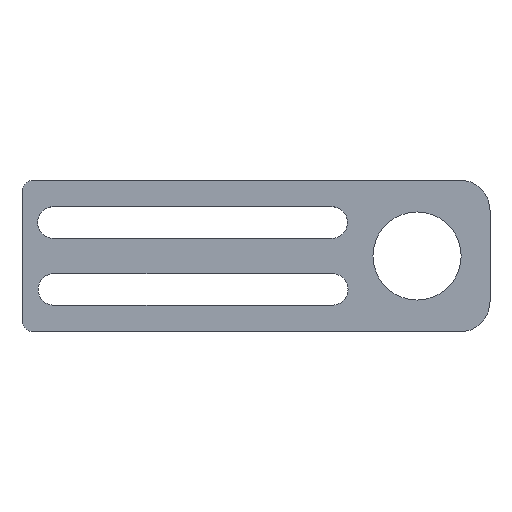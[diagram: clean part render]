
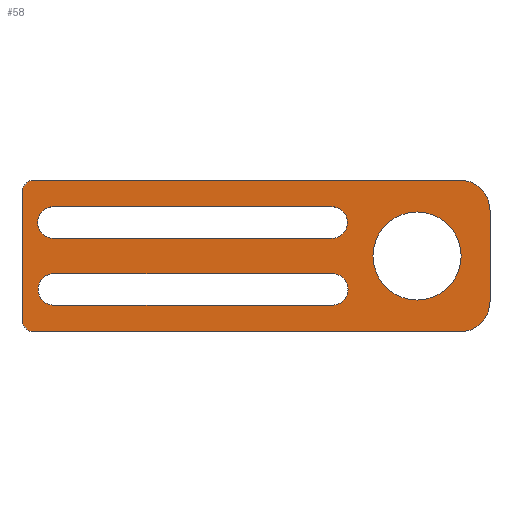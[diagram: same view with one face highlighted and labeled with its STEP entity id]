
A CAD part, top view. The second image highlights one B-rep face of the part: STEP entity #58.
In plain terms, the highlighted planar face has unit normal (0, 0, 1).
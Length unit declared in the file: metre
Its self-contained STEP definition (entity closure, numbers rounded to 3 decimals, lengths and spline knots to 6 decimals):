
#58 = ADVANCED_FACE( '', ( #113, #114, #115, #116 ), #117, .T. );
#113 = FACE_BOUND( '', #176, .T. );
#114 = FACE_BOUND( '', #177, .T. );
#115 = FACE_OUTER_BOUND( '', #178, .T. );
#116 = FACE_BOUND( '', #179, .T. );
#117 = PLANE( '', #180 );
#176 = EDGE_LOOP( '', ( #261, #262, #263, #264 ) );
#177 = EDGE_LOOP( '', ( #265, #266, #267, #268 ) );
#178 = EDGE_LOOP( '', ( #269, #270, #271, #272, #273, #274, #275, #276 ) );
#179 = EDGE_LOOP( '', ( #277 ) );
#180 = AXIS2_PLACEMENT_3D( '', #278, #279, #280 );
#261 = ORIENTED_EDGE( '', *, *, #397, .F. );
#262 = ORIENTED_EDGE( '', *, *, #383, .F. );
#263 = ORIENTED_EDGE( '', *, *, #398, .F. );
#264 = ORIENTED_EDGE( '', *, *, #399, .F. );
#265 = ORIENTED_EDGE( '', *, *, #400, .F. );
#266 = ORIENTED_EDGE( '', *, *, #401, .F. );
#267 = ORIENTED_EDGE( '', *, *, #402, .F. );
#268 = ORIENTED_EDGE( '', *, *, #380, .F. );
#269 = ORIENTED_EDGE( '', *, *, #394, .T. );
#270 = ORIENTED_EDGE( '', *, *, #403, .T. );
#271 = ORIENTED_EDGE( '', *, *, #404, .T. );
#272 = ORIENTED_EDGE( '', *, *, #405, .T. );
#273 = ORIENTED_EDGE( '', *, *, #406, .T. );
#274 = ORIENTED_EDGE( '', *, *, #388, .T. );
#275 = ORIENTED_EDGE( '', *, *, #375, .T. );
#276 = ORIENTED_EDGE( '', *, *, #407, .T. );
#277 = ORIENTED_EDGE( '', *, *, #408, .F. );
#278 = CARTESIAN_POINT( '', ( 0., 0.000386, 0.003 ) );
#279 = DIRECTION( '', ( 0., 0., 1. ) );
#280 = DIRECTION( '', ( 1., 0., 0. ) );
#375 = EDGE_CURVE( '', #451, #449, #452, .T. );
#380 = EDGE_CURVE( '', #458, #460, #461, .T. );
#383 = EDGE_CURVE( '', #464, #465, #466, .T. );
#388 = EDGE_CURVE( '', #473, #451, #474, .T. );
#394 = EDGE_CURVE( '', #484, #482, #485, .T. );
#397 = EDGE_CURVE( '', #465, #488, #489, .T. );
#398 = EDGE_CURVE( '', #490, #464, #491, .T. );
#399 = EDGE_CURVE( '', #488, #490, #492, .T. );
#400 = EDGE_CURVE( '', #493, #458, #494, .T. );
#401 = EDGE_CURVE( '', #495, #493, #496, .T. );
#402 = EDGE_CURVE( '', #460, #495, #497, .T. );
#403 = EDGE_CURVE( '', #482, #498, #499, .T. );
#404 = EDGE_CURVE( '', #498, #500, #501, .T. );
#405 = EDGE_CURVE( '', #500, #502, #503, .T. );
#406 = EDGE_CURVE( '', #502, #473, #504, .T. );
#407 = EDGE_CURVE( '', #449, #484, #505, .T. );
#408 = EDGE_CURVE( '', #506, #506, #507, .T. );
#449 = VERTEX_POINT( '', #577 );
#451 = VERTEX_POINT( '', #580 );
#452 = LINE( '', #581, #582 );
#458 = VERTEX_POINT( '', #590 );
#460 = VERTEX_POINT( '', #593 );
#461 = LINE( '', #594, #595 );
#464 = VERTEX_POINT( '', #599 );
#465 = VERTEX_POINT( '', #600 );
#466 = LINE( '', #601, #602 );
#473 = VERTEX_POINT( '', #612 );
#474 = CIRCLE( '', #613, 0.002 );
#482 = VERTEX_POINT( '', #623 );
#484 = VERTEX_POINT( '', #626 );
#485 = LINE( '', #627, #628 );
#488 = VERTEX_POINT( '', #632 );
#489 = CIRCLE( '', #633, 0.0026 );
#490 = VERTEX_POINT( '', #634 );
#491 = CIRCLE( '', #635, 0.0026 );
#492 = LINE( '', #636, #637 );
#493 = VERTEX_POINT( '', #638 );
#494 = CIRCLE( '', #639, 0.0026 );
#495 = VERTEX_POINT( '', #640 );
#496 = LINE( '', #641, #642 );
#497 = CIRCLE( '', #643, 0.0026 );
#498 = VERTEX_POINT( '', #644 );
#499 = CIRCLE( '', #645, 0.005 );
#500 = VERTEX_POINT( '', #646 );
#501 = LINE( '', #647, #648 );
#502 = VERTEX_POINT( '', #649 );
#503 = CIRCLE( '', #650, 0.002 );
#504 = LINE( '', #651, #652 );
#505 = CIRCLE( '', #653, 0.005 );
#506 = VERTEX_POINT( '', #654 );
#507 = CIRCLE( '', #655, 0.00725 );
#577 = CARTESIAN_POINT( '', ( 0.072, 0.000386, 0.003 ) );
#580 = CARTESIAN_POINT( '', ( 0.002, 0.000386, 0.003 ) );
#581 = CARTESIAN_POINT( '', ( 0., 0.000386, 0.003 ) );
#582 = VECTOR( '', #705, 1. );
#590 = CARTESIAN_POINT( '', ( 0.005167, 0.015786, 0.003 ) );
#593 = CARTESIAN_POINT( '', ( 0.050967, 0.015786, 0.003 ) );
#594 = CARTESIAN_POINT( '', ( 0.003067, 0.015786, 0.003 ) );
#595 = VECTOR( '', #709, 1. );
#599 = CARTESIAN_POINT( '', ( 0.051045, 0.009986, 0.003 ) );
#600 = CARTESIAN_POINT( '', ( 0.005245, 0.009986, 0.003 ) );
#601 = CARTESIAN_POINT( '', ( 0.003145, 0.009986, 0.003 ) );
#602 = VECTOR( '', #711, 1. );
#612 = CARTESIAN_POINT( '', ( 0., 0.002386, 0.003 ) );
#613 = AXIS2_PLACEMENT_3D( '', #715, #716, #717 );
#623 = CARTESIAN_POINT( '', ( 0.077, 0.020386, 0.003 ) );
#626 = CARTESIAN_POINT( '', ( 0.077, 0.005386, 0.003 ) );
#627 = CARTESIAN_POINT( '', ( 0.077, 0.025386, 0.003 ) );
#628 = VECTOR( '', #724, 1. );
#632 = CARTESIAN_POINT( '', ( 0.005245, 0.004786, 0.003 ) );
#633 = AXIS2_PLACEMENT_3D( '', #726, #727, #728 );
#634 = CARTESIAN_POINT( '', ( 0.051045, 0.004786, 0.003 ) );
#635 = AXIS2_PLACEMENT_3D( '', #729, #730, #731 );
#636 = CARTESIAN_POINT( '', ( 0.003145, 0.004786, 0.003 ) );
#637 = VECTOR( '', #732, 1. );
#638 = CARTESIAN_POINT( '', ( 0.005167, 0.020986, 0.003 ) );
#639 = AXIS2_PLACEMENT_3D( '', #733, #734, #735 );
#640 = CARTESIAN_POINT( '', ( 0.050967, 0.020986, 0.003 ) );
#641 = CARTESIAN_POINT( '', ( 0.003067, 0.020986, 0.003 ) );
#642 = VECTOR( '', #736, 1. );
#643 = AXIS2_PLACEMENT_3D( '', #737, #738, #739 );
#644 = CARTESIAN_POINT( '', ( 0.072, 0.025386, 0.003 ) );
#645 = AXIS2_PLACEMENT_3D( '', #740, #741, #742 );
#646 = CARTESIAN_POINT( '', ( 0.002, 0.025386, 0.003 ) );
#647 = CARTESIAN_POINT( '', ( 0., 0.025386, 0.003 ) );
#648 = VECTOR( '', #743, 1. );
#649 = CARTESIAN_POINT( '', ( 0., 0.023386, 0.003 ) );
#650 = AXIS2_PLACEMENT_3D( '', #744, #745, #746 );
#651 = CARTESIAN_POINT( '', ( 0., 0.025386, 0.003 ) );
#652 = VECTOR( '', #747, 1. );
#653 = AXIS2_PLACEMENT_3D( '', #748, #749, #750 );
#654 = CARTESIAN_POINT( '', ( 0.07225, 0.012886, 0.003 ) );
#655 = AXIS2_PLACEMENT_3D( '', #751, #752, #753 );
#705 = DIRECTION( '', ( 1., 0., 0. ) );
#709 = DIRECTION( '', ( 1., 0., 0. ) );
#711 = DIRECTION( '', ( -1., 0., 0. ) );
#715 = CARTESIAN_POINT( '', ( 0.002, 0.002386, 0.003 ) );
#716 = DIRECTION( '', ( 0., 0., 1. ) );
#717 = DIRECTION( '', ( 1., 0., 0. ) );
#724 = DIRECTION( '', ( 0., 1., 0. ) );
#726 = CARTESIAN_POINT( '', ( 0.005245, 0.007386, 0.003 ) );
#727 = DIRECTION( '', ( 0., 0., 1. ) );
#728 = DIRECTION( '', ( 0., -1., 0. ) );
#729 = CARTESIAN_POINT( '', ( 0.051045, 0.007386, 0.003 ) );
#730 = DIRECTION( '', ( 0., 0., 1. ) );
#731 = DIRECTION( '', ( 0., -1., 0. ) );
#732 = DIRECTION( '', ( 1., 0., 0. ) );
#733 = CARTESIAN_POINT( '', ( 0.005167, 0.018386, 0.003 ) );
#734 = DIRECTION( '', ( 0., 0., 1. ) );
#735 = DIRECTION( '', ( 0., -1., 0. ) );
#736 = DIRECTION( '', ( -1., 0., 0. ) );
#737 = CARTESIAN_POINT( '', ( 0.050967, 0.018386, 0.003 ) );
#738 = DIRECTION( '', ( 0., 0., 1. ) );
#739 = DIRECTION( '', ( 0., -1., 0. ) );
#740 = CARTESIAN_POINT( '', ( 0.072, 0.020386, 0.003 ) );
#741 = DIRECTION( '', ( 0., 0., 1. ) );
#742 = DIRECTION( '', ( 1., 0., 0. ) );
#743 = DIRECTION( '', ( -1., 0., 0. ) );
#744 = CARTESIAN_POINT( '', ( 0.002, 0.023386, 0.003 ) );
#745 = DIRECTION( '', ( 0., 0., 1. ) );
#746 = DIRECTION( '', ( 1., 0., 0. ) );
#747 = DIRECTION( '', ( 0., -1., 0. ) );
#748 = CARTESIAN_POINT( '', ( 0.072, 0.005386, 0.003 ) );
#749 = DIRECTION( '', ( 0., 0., 1. ) );
#750 = DIRECTION( '', ( 1., 0., 0. ) );
#751 = CARTESIAN_POINT( '', ( 0.065, 0.012886, 0.003 ) );
#752 = DIRECTION( '', ( 0., 0., 1. ) );
#753 = DIRECTION( '', ( 1., 0., 0. ) );
